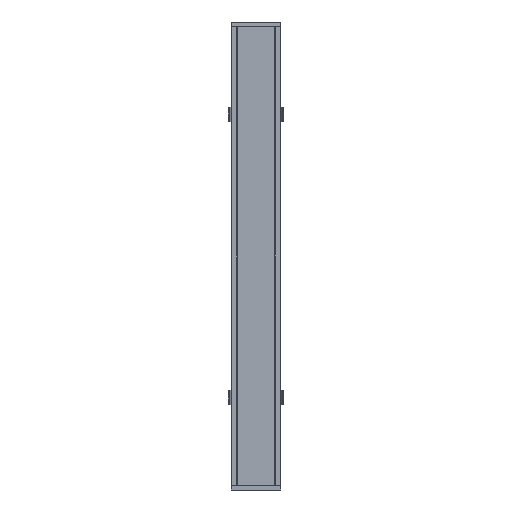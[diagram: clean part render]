
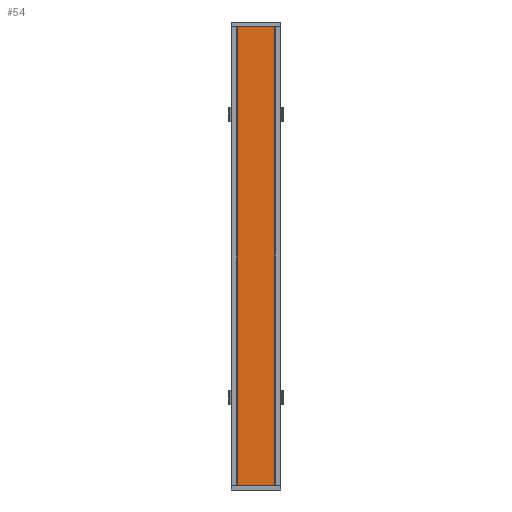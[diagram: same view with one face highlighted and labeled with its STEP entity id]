
A CAD part, front view. The second image highlights one B-rep face of the part: STEP entity #54.
In plain terms, the highlighted planar face has unit normal (0, -1, 0).
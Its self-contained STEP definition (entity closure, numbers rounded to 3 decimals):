
#54 = ADVANCED_FACE ( 'NONE', ( #1374 ), #5042, .F. ) ;
#489 = DIRECTION ( 'NONE',  ( 0., 0., -1. ) ) ;
#1065 = VECTOR ( 'NONE', #489, 1000. ) ;
#1374 = FACE_OUTER_BOUND ( 'NONE', #5699, .T. ) ;
#1541 = DIRECTION ( 'NONE',  ( 0., 0., -1. ) ) ;
#1884 = CARTESIAN_POINT ( 'NONE',  ( 46.5, 1.6, -562. ) ) ;
#1994 = VECTOR ( 'NONE', #1541, 1000. ) ;
#2027 = ORIENTED_EDGE ( 'NONE', *, *, #8570, .T. ) ;
#2332 = CARTESIAN_POINT ( 'NONE',  ( 46.5, 1.6, 562. ) ) ;
#2333 = DIRECTION ( 'NONE',  ( 1., 0., 0. ) ) ;
#2427 = EDGE_CURVE ( 'NONE', #8801, #6612, #7044, .T. ) ;
#3011 = VECTOR ( 'NONE', #5488, 1000. ) ;
#4031 = DIRECTION ( 'NONE',  ( 0., 1., 0. ) ) ;
#4356 = EDGE_CURVE ( 'NONE', #10203, #6612, #9808, .T. ) ;
#4550 = CARTESIAN_POINT ( 'NONE',  ( -46.5, 1.6, -562. ) ) ;
#4652 = CARTESIAN_POINT ( 'NONE',  ( -46.5, 1.6, 562. ) ) ;
#5042 = PLANE ( 'NONE',  #10458 ) ;
#5141 = CARTESIAN_POINT ( 'NONE',  ( 46.5, 1.6, 562. ) ) ;
#5488 = DIRECTION ( 'NONE',  ( 1., 0., 0. ) ) ;
#5699 = EDGE_LOOP ( 'NONE', ( #10473, #8858, #5818, #2027 ) ) ;
#5818 = ORIENTED_EDGE ( 'NONE', *, *, #7450, .F. ) ;
#6612 = VERTEX_POINT ( 'NONE', #1884 ) ;
#6742 = DIRECTION ( 'NONE',  ( 0., 0., 1. ) ) ;
#7044 = LINE ( 'NONE', #7854, #9040 ) ;
#7450 = EDGE_CURVE ( 'NONE', #11197, #10203, #11077, .T. ) ;
#7854 = CARTESIAN_POINT ( 'NONE',  ( -46.5, 1.6, -562. ) ) ;
#8570 = EDGE_CURVE ( 'NONE', #11197, #8801, #9618, .T. ) ;
#8751 = CARTESIAN_POINT ( 'NONE',  ( -46.5, 1.6, 562. ) ) ;
#8801 = VERTEX_POINT ( 'NONE', #4550 ) ;
#8858 = ORIENTED_EDGE ( 'NONE', *, *, #4356, .F. ) ;
#9040 = VECTOR ( 'NONE', #2333, 1000. ) ;
#9618 = LINE ( 'NONE', #10808, #1994 ) ;
#9808 = LINE ( 'NONE', #5141, #1065 ) ;
#10203 = VERTEX_POINT ( 'NONE', #2332 ) ;
#10458 = AXIS2_PLACEMENT_3D ( 'NONE', #8751, #4031, #6742 ) ;
#10473 = ORIENTED_EDGE ( 'NONE', *, *, #2427, .T. ) ;
#10691 = CARTESIAN_POINT ( 'NONE',  ( -46.5, 1.6, 562. ) ) ;
#10808 = CARTESIAN_POINT ( 'NONE',  ( -46.5, 1.6, 562. ) ) ;
#11077 = LINE ( 'NONE', #4652, #3011 ) ;
#11197 = VERTEX_POINT ( 'NONE', #10691 ) ;
